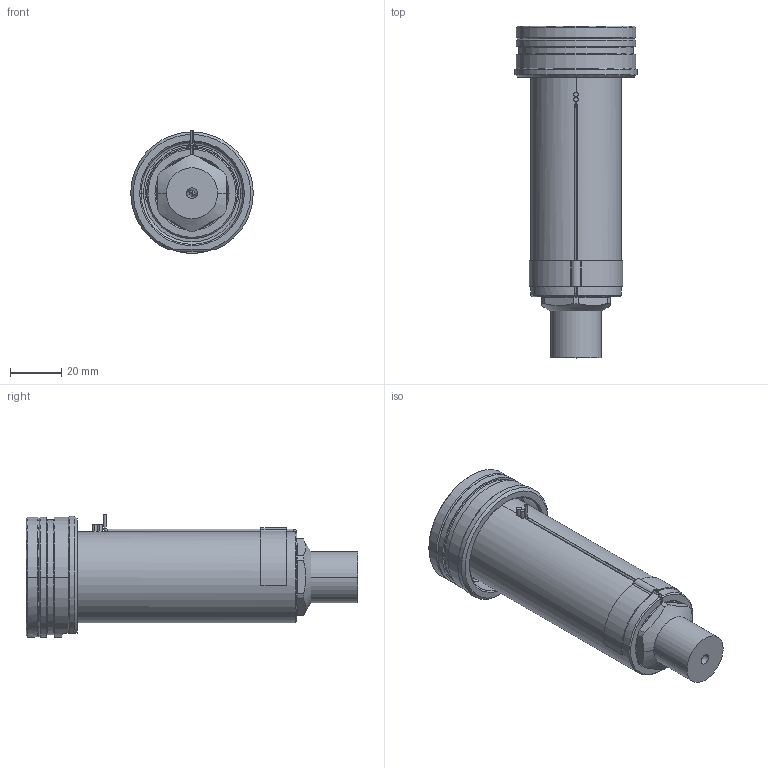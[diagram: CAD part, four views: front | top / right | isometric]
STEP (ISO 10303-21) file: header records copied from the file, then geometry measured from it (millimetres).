
FILE_DESCRIPTION((''),'2;1');
FILE_NAME('EO16_PG-FBE_STD_100_SW','2024-02-19T12:06:31',('sundharh'),(''),'CREO PARAMETRIC BY PTC INC, 2023154','CREO PARAMETRIC BY PTC INC, 2023154','');
FILE_SCHEMA(('CONFIG_CONTROL_DESIGN'));
Length unit declared in the file: millimetre
Products named in the file (1): EO16_PG-FBE_STD_100_SW
Bounding box: 47.97 x 130 x 48 mm (x, y, z)
Volume: 105378 mm3; surface area: 29780.1 mm2
Topology: 1 solids, 1 shells, 207 faces, 542 edges, 333 vertices
Faces by surface type: cylinder 81, plane 59, cone 43, torus 14, bspline 7, sphere 3
Entity records: 7482 total; most frequent: CARTESIAN_POINT 2290, DIRECTION 1149, ORIENTED_EDGE 1068, EDGE_CURVE 534, AXIS2_PLACEMENT_3D 479, VERTEX_POINT 333, CIRCLE 279, EDGE_LOOP 225
